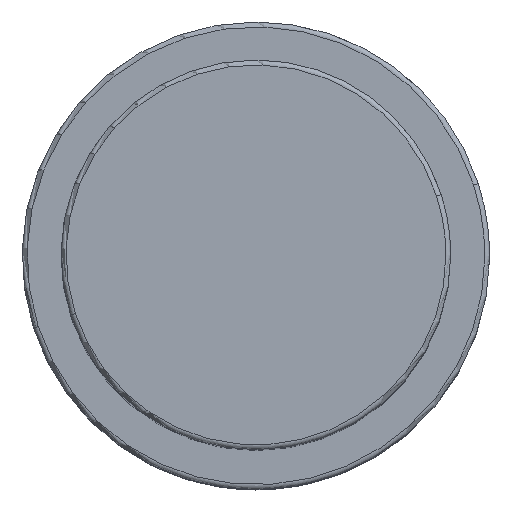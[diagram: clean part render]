
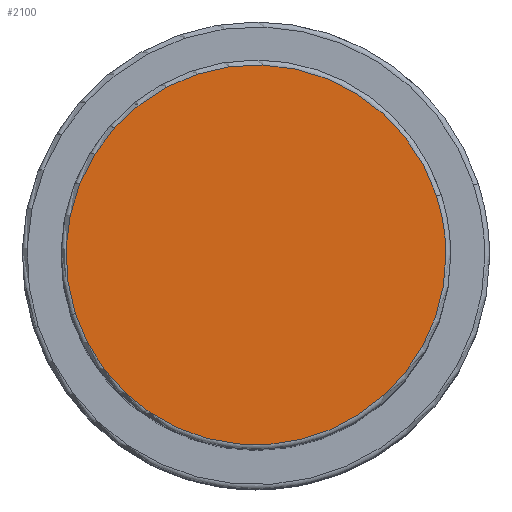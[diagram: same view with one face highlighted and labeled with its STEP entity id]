
A CAD part, top view. The second image highlights one B-rep face of the part: STEP entity #2100.
In plain terms, the highlighted planar face has unit normal (0, 0, 1).
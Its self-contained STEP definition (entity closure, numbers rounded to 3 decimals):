
#2066=CARTESIAN_POINT('',(19.5,0.0,68.5));
#2067=VERTEX_POINT('',#2066);
#2068=CARTESIAN_POINT('',(18.546,6.026,68.5));
#2069=VERTEX_POINT('',#2068);
#2070=CARTESIAN_POINT('',(0.0,0.0,68.5));
#2071=DIRECTION('',(0.0,0.0,1.0));
#2072=DIRECTION('',(1.0,0.0,0.0));
#2073=AXIS2_PLACEMENT_3D('',#2070,#2071,#2072);
#2074=CIRCLE('',#2073,19.5);
#2075=EDGE_CURVE('no 1988',#2067,#2069,#2074,.T.);
#2076=ORIENTED_EDGE('',*,*,#2075,.T.);
#2077=CARTESIAN_POINT('',(-18.546,-6.026,68.5));
#2078=VERTEX_POINT('',#2077);
#2079=CARTESIAN_POINT('',(0.0,0.0,68.5));
#2080=DIRECTION('',(0.0,0.0,1.0));
#2081=DIRECTION('',(1.0,0.0,0.0));
#2082=AXIS2_PLACEMENT_3D('',#2079,#2080,#2081);
#2083=CIRCLE('',#2082,19.5);
#2084=EDGE_CURVE('no 1994',#2069,#2078,#2083,.T.);
#2085=ORIENTED_EDGE('',*,*,#2084,.T.);
#2086=CARTESIAN_POINT('',(0.0,0.0,68.5));
#2087=DIRECTION('',(0.0,0.0,1.0));
#2088=DIRECTION('',(1.0,0.0,0.0));
#2089=AXIS2_PLACEMENT_3D('',#2086,#2087,#2088);
#2090=CIRCLE('',#2089,19.5);
#2091=EDGE_CURVE('no 1998',#2078,#2067,#2090,.T.);
#2092=ORIENTED_EDGE('',*,*,#2091,.T.);
#2093=EDGE_LOOP('',(#2076,#2085,#2092));
#2094=FACE_OUTER_BOUND('',#2093,.T.);
#2095=CARTESIAN_POINT('',(0.0,0.0,68.5));
#2096=DIRECTION('',(0.0,0.0,1.0));
#2097=DIRECTION('',(1.0,0.0,0.0));
#2098=AXIS2_PLACEMENT_3D('',#2095,#2096,#2097);
#2099=PLANE('',#2098);
#2100=ADVANCED_FACE('no 1979',(#2094),#2099,.T.);
